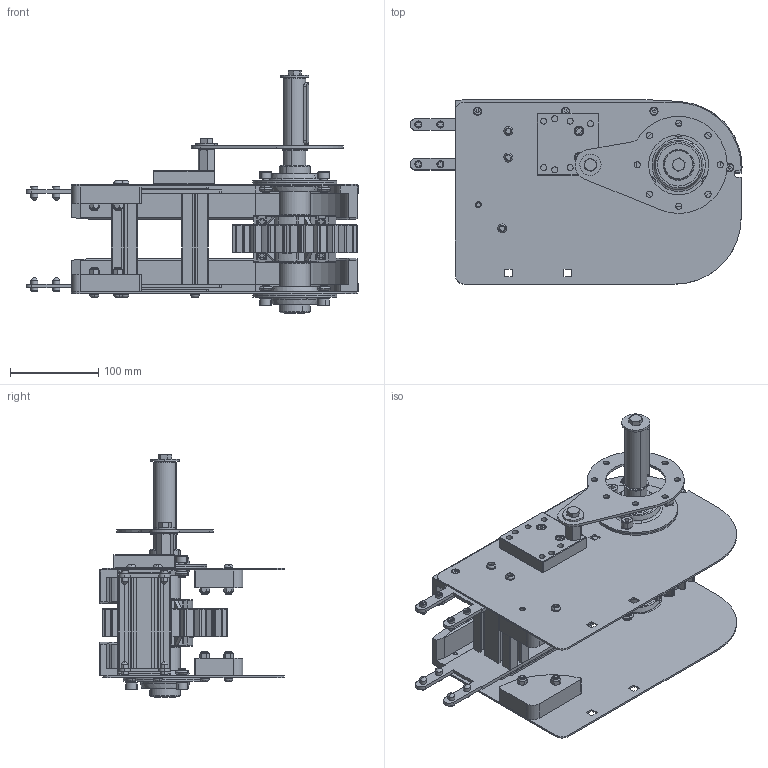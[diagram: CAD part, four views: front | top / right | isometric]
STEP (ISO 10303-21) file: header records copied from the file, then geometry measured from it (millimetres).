
FILE_DESCRIPTION (( 'STEP AP214' ), '1' );
FILE_NAME ('2000.450.149S.STEP', '2021-06-18T07:28:42', ( 'Localadmin' ), ( 'Microsoft' ), 'SwSTEP 2.0', 'SolidWorks 2018', '' );
FILE_SCHEMA (( 'AUTOMOTIVE_DESIGN' ));
Length unit declared in the file: millimetre
Products named in the file (34): GRANI A PUNTA CONICA UNI 5927_M8x16 UNI 5927; Circlip DIN 471 - 25 x 1.2_Circlip DIN 471 - 25 x 1.2; PU008.012.025N; VITI TSEI UNI 5933 INOX_0410UNI5933A2; DADI ESAGONALI AUTOBLOCCANTI UNI 7473 INOX_M6 UNI 7473 INOX; RUOTE DI RINVIO NSX881; VITI TESTA BOMBATA ISO 730 INOX_M6x30 ISO 7380 INOX; SBPF 205 INOX; 084.312.006; 2000.450.002S; CHIAVETTE_A 8x7x70 UNI 6604-69; 2000.450.001; CHIAVETTE_A 8x7x50 UNI 6604-69; 2000.001.022; VITI TESTA BOMBATA ISO 730 INOX_M6x20 ISO 7380 INOX; 2000.001.011; 084.301.000 VITI ALUSIC_084.301.029; 084.808.004; VITI TE UNI 5739 INOX_M8x16 UNI 5739 INOX; 2000.001.024; 2000.001.026; RONDELLE FASCIA LARGA UNI 6593 INOX_8.4x24 UNI 6593 INOX; 2000.001.025; GRANI A PUNTA PIATTA UNI 5923_M8x20 UNI 5923; 2000.001.001; 2000.001.006-2; RONDELLE FASCIA LARGA UNI 6593 INOX_8.4x32 UNI 6593 INOX; 084.802.027; VITI TE UNI 5739 INOX_M8x20 UNI 5739 INOX; 2000.450.003; 2000.450.149S; VITI TCEI UNI 5931 INOX_M6x30 UNI 5931 INOX; 2000.001.021; 2000.001.020
Assembly tree (75 placements, depth 2):
  2000.450.149S
    084.802.027
    2000.001.006-2  x2
    2000.001.001  x2
    2000.001.025
    2000.001.026  x2
    2000.001.024
    084.808.004
    2000.001.011
    2000.001.022
    2000.450.001  x2
    2000.450.002S  x2
    SBPF 205 INOX  x2
    RUOTE DI RINVIO NSX881
    VITI TSEI UNI 5933 INOX_0410UNI5933A2  x8
    GRANI A PUNTA CONICA UNI 5927_M8x16 UNI 5927  x8
    VITI TCEI UNI 5931 INOX_M6x30 UNI 5931 INOX  x2
    VITI TE UNI 5739 INOX_M8x20 UNI 5739 INOX
    RONDELLE FASCIA LARGA UNI 6593 INOX_8.4x32 UNI 6593 INOX
    GRANI A PUNTA PIATTA UNI 5923_M8x20 UNI 5923
    RONDELLE FASCIA LARGA UNI 6593 INOX_8.4x24 UNI 6593 INOX
    VITI TE UNI 5739 INOX_M8x16 UNI 5739 INOX
    084.301.000 VITI ALUSIC_084.301.029  x6
    VITI TESTA BOMBATA ISO 730 INOX_M6x20 ISO 7380 INOX  x6
    CHIAVETTE_A 8x7x50 UNI 6604-69
    CHIAVETTE_A 8x7x70 UNI 6604-69
    084.312.006  x6
    VITI TESTA BOMBATA ISO 730 INOX_M6x30 ISO 7380 INOX  x3
    DADI ESAGONALI AUTOBLOCCANTI UNI 7473 INOX_M6 UNI 7473 INOX  x4
    PU008.012.025N
    Circlip DIN 471 - 25 x 1.2_Circlip DIN 471 - 25 x 1.2
    2000.001.020
    2000.001.021
    2000.450.003  x2
Bounding box: 376.25 x 208.8 x 275.33 mm (x, y, z)
Volume: 1741192.8 mm3; surface area: 850920.8 mm2
Topology: 87 solids, 87 shells, 3160 faces, 7636 edges, 4605 vertices
Faces by surface type: plane 1126, cylinder 1068, bspline 592, cone 296, torus 58, sphere 20
Entity records: 76988 total; most frequent: CARTESIAN_POINT 24333, ORIENTED_EDGE 10802, DIRECTION 10404, EDGE_CURVE 5401, AXIS2_PLACEMENT_3D 3968, VERTEX_POINT 3273, EDGE_LOOP 2518, VECTOR 2468
